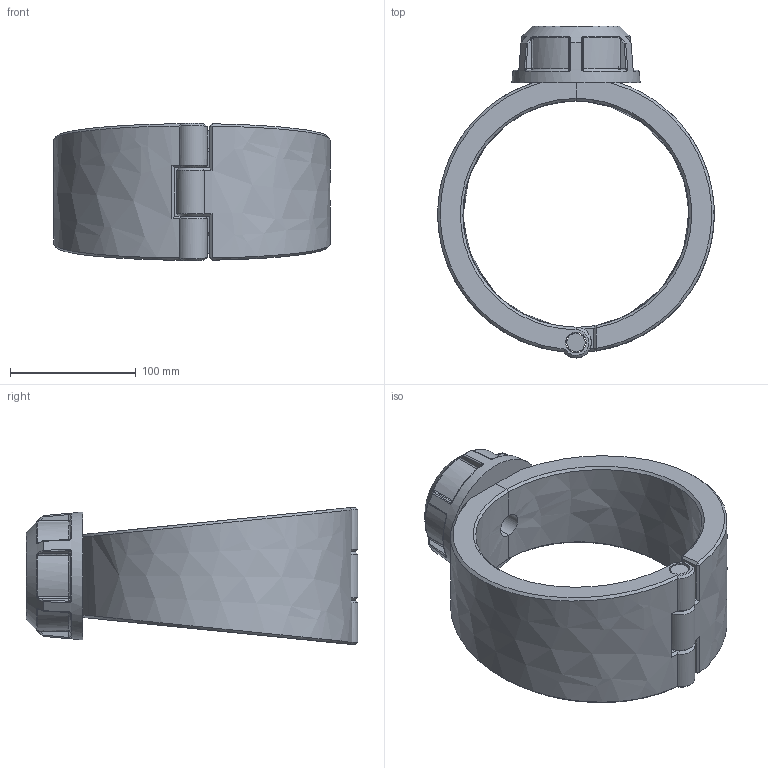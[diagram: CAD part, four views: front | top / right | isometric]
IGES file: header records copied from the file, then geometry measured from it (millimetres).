
Global section: file name: 163000180013; native system: Autodesk Inventor 2019; preprocessor: unknown; author: comp2; date: 20220203.115245; units: millimetre
Bounding box: 220 x 264 x 109.6 mm (x, y, z)
Volume: 1298043.9 mm3; surface area: 179813.5 mm2
Topology: 4 solids, 4 shells, 203 faces, 486 edges, 293 vertices
Faces by surface type: bspline 203
